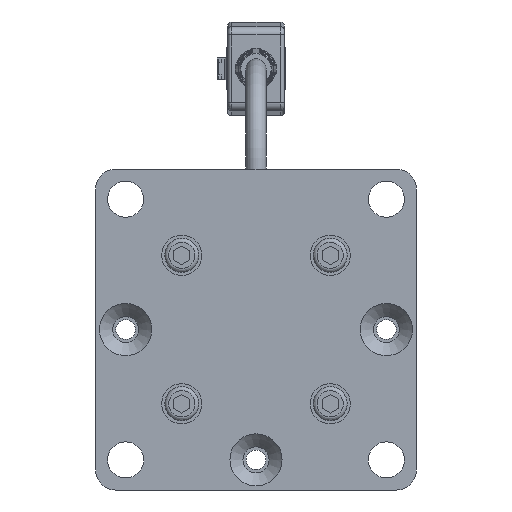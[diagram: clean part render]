
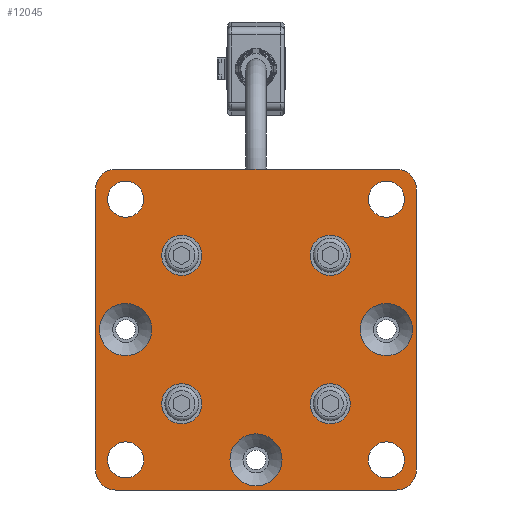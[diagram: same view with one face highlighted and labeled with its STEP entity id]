
A CAD part, front view. The second image highlights one B-rep face of the part: STEP entity #12045.
In plain terms, the highlighted planar face has unit normal (0, -1, 0) as drawn and (0, 0, 1) by its records, which use the part's own axes.
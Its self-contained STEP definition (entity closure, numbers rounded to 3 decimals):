
#491=CIRCLE('',#16275,5.);
#492=CIRCLE('',#16276,5.);
#493=CIRCLE('',#16277,5.);
#494=CIRCLE('',#16278,5.);
#495=CIRCLE('',#16279,6.5);
#496=CIRCLE('',#16280,6.5);
#497=CIRCLE('',#16281,6.5);
#498=CIRCLE('',#16282,4.5);
#499=CIRCLE('',#16283,4.5);
#500=CIRCLE('',#16284,4.5);
#501=CIRCLE('',#16285,4.5);
#502=CIRCLE('',#16286,5.);
#503=CIRCLE('',#16287,5.);
#504=CIRCLE('',#16288,5.);
#505=CIRCLE('',#16289,5.);
#949=ORIENTED_EDGE('',*,*,#4481,.T.);
#950=ORIENTED_EDGE('',*,*,#4482,.T.);
#951=ORIENTED_EDGE('',*,*,#4483,.T.);
#952=ORIENTED_EDGE('',*,*,#4484,.T.);
#953=ORIENTED_EDGE('',*,*,#4485,.T.);
#954=ORIENTED_EDGE('',*,*,#4486,.T.);
#955=ORIENTED_EDGE('',*,*,#4487,.T.);
#956=ORIENTED_EDGE('',*,*,#4488,.F.);
#957=ORIENTED_EDGE('',*,*,#4489,.F.);
#958=ORIENTED_EDGE('',*,*,#4490,.F.);
#959=ORIENTED_EDGE('',*,*,#4491,.F.);
#960=ORIENTED_EDGE('',*,*,#4471,.T.);
#961=ORIENTED_EDGE('',*,*,#4492,.T.);
#962=ORIENTED_EDGE('',*,*,#4473,.T.);
#963=ORIENTED_EDGE('',*,*,#4493,.T.);
#964=ORIENTED_EDGE('',*,*,#4477,.T.);
#965=ORIENTED_EDGE('',*,*,#4494,.T.);
#966=ORIENTED_EDGE('',*,*,#4465,.T.);
#967=ORIENTED_EDGE('',*,*,#4495,.T.);
#4465=EDGE_CURVE('',#6231,#6232,#7419,.T.);
#4471=EDGE_CURVE('',#6238,#6237,#7425,.T.);
#4473=EDGE_CURVE('',#6239,#6240,#7427,.T.);
#4477=EDGE_CURVE('',#6243,#6244,#7431,.T.);
#4481=EDGE_CURVE('',#6247,#6247,#491,.T.);
#4482=EDGE_CURVE('',#6248,#6248,#492,.T.);
#4483=EDGE_CURVE('',#6249,#6249,#493,.T.);
#4484=EDGE_CURVE('',#6250,#6250,#494,.T.);
#4485=EDGE_CURVE('',#6251,#6251,#495,.T.);
#4486=EDGE_CURVE('',#6252,#6252,#496,.T.);
#4487=EDGE_CURVE('',#6253,#6253,#497,.T.);
#4488=EDGE_CURVE('',#6254,#6254,#498,.T.);
#4489=EDGE_CURVE('',#6255,#6255,#499,.T.);
#4490=EDGE_CURVE('',#6256,#6256,#500,.T.);
#4491=EDGE_CURVE('',#6257,#6257,#501,.T.);
#4492=EDGE_CURVE('',#6237,#6239,#502,.T.);
#4493=EDGE_CURVE('',#6240,#6243,#503,.T.);
#4494=EDGE_CURVE('',#6244,#6231,#504,.T.);
#4495=EDGE_CURVE('',#6232,#6238,#505,.T.);
#6231=VERTEX_POINT('',#20898);
#6232=VERTEX_POINT('',#20899);
#6237=VERTEX_POINT('',#20910);
#6238=VERTEX_POINT('',#20912);
#6239=VERTEX_POINT('',#20916);
#6240=VERTEX_POINT('',#20917);
#6243=VERTEX_POINT('',#20925);
#6244=VERTEX_POINT('',#20926);
#6247=VERTEX_POINT('',#20934);
#6248=VERTEX_POINT('',#20936);
#6249=VERTEX_POINT('',#20938);
#6250=VERTEX_POINT('',#20940);
#6251=VERTEX_POINT('',#20942);
#6252=VERTEX_POINT('',#20944);
#6253=VERTEX_POINT('',#20946);
#6254=VERTEX_POINT('',#20948);
#6255=VERTEX_POINT('',#20950);
#6256=VERTEX_POINT('',#20952);
#6257=VERTEX_POINT('',#20954);
#7419=LINE('',#20897,#8631);
#7425=LINE('',#20911,#8637);
#7427=LINE('',#20915,#8639);
#7431=LINE('',#20924,#8643);
#8631=VECTOR('',#17411,1000.);
#8637=VECTOR('',#17419,1000.);
#8639=VECTOR('',#17423,1000.);
#8643=VECTOR('',#17429,1000.);
#9847=EDGE_LOOP('',(#949));
#9848=EDGE_LOOP('',(#950));
#9849=EDGE_LOOP('',(#951));
#9850=EDGE_LOOP('',(#952));
#9851=EDGE_LOOP('',(#953));
#9852=EDGE_LOOP('',(#954));
#9853=EDGE_LOOP('',(#955));
#9854=EDGE_LOOP('',(#956));
#9855=EDGE_LOOP('',(#957));
#9856=EDGE_LOOP('',(#958));
#9857=EDGE_LOOP('',(#959));
#9858=EDGE_LOOP('',(#960,#961,#962,#963,#964,#965,#966,#967));
#10719=FACE_BOUND('',#9847,.T.);
#10720=FACE_BOUND('',#9848,.T.);
#10721=FACE_BOUND('',#9849,.T.);
#10722=FACE_BOUND('',#9850,.T.);
#10723=FACE_BOUND('',#9851,.T.);
#10724=FACE_BOUND('',#9852,.T.);
#10725=FACE_BOUND('',#9853,.T.);
#10726=FACE_BOUND('',#9854,.T.);
#10727=FACE_BOUND('',#9855,.T.);
#10728=FACE_BOUND('',#9856,.T.);
#10729=FACE_BOUND('',#9857,.T.);
#10730=FACE_BOUND('',#9858,.T.);
#11591=PLANE('',#16274);
#12045=ADVANCED_FACE('',(#10719,#10720,#10721,#10722,#10723,#10724,#10725,
#10726,#10727,#10728,#10729,#10730),#11591,.T.);
#16274=AXIS2_PLACEMENT_3D('',#20932,#17433,#17434);
#16275=AXIS2_PLACEMENT_3D('',#20933,#17435,#17436);
#16276=AXIS2_PLACEMENT_3D('',#20935,#17437,#17438);
#16277=AXIS2_PLACEMENT_3D('',#20937,#17439,#17440);
#16278=AXIS2_PLACEMENT_3D('',#20939,#17441,#17442);
#16279=AXIS2_PLACEMENT_3D('',#20941,#17443,#17444);
#16280=AXIS2_PLACEMENT_3D('',#20943,#17445,#17446);
#16281=AXIS2_PLACEMENT_3D('',#20945,#17447,#17448);
#16282=AXIS2_PLACEMENT_3D('',#20947,#17449,#17450);
#16283=AXIS2_PLACEMENT_3D('',#20949,#17451,#17452);
#16284=AXIS2_PLACEMENT_3D('',#20951,#17453,#17454);
#16285=AXIS2_PLACEMENT_3D('',#20953,#17455,#17456);
#16286=AXIS2_PLACEMENT_3D('',#20955,#17457,#17458);
#16287=AXIS2_PLACEMENT_3D('',#20956,#17459,#17460);
#16288=AXIS2_PLACEMENT_3D('',#20957,#17461,#17462);
#16289=AXIS2_PLACEMENT_3D('',#20958,#17463,#17464);
#17411=DIRECTION('',(0.,-1.,0.));
#17419=DIRECTION('',(1.,0.,0.));
#17423=DIRECTION('',(0.,1.,0.));
#17429=DIRECTION('',(-1.,0.,0.));
#17433=DIRECTION('',(0.,0.,1.));
#17434=DIRECTION('',(1.,0.,0.));
#17435=DIRECTION('',(0.,0.,-1.));
#17436=DIRECTION('',(0.,-1.,0.));
#17437=DIRECTION('',(0.,0.,-1.));
#17438=DIRECTION('',(0.,-1.,0.));
#17439=DIRECTION('',(0.,0.,-1.));
#17440=DIRECTION('',(0.,-1.,0.));
#17441=DIRECTION('',(0.,0.,-1.));
#17442=DIRECTION('',(0.,-1.,0.));
#17443=DIRECTION('',(0.,0.,-1.));
#17444=DIRECTION('',(0.,-1.,0.));
#17445=DIRECTION('',(0.,0.,-1.));
#17446=DIRECTION('',(0.,-1.,0.));
#17447=DIRECTION('',(0.,0.,-1.));
#17448=DIRECTION('',(0.,-1.,0.));
#17449=DIRECTION('',(0.,0.,1.));
#17450=DIRECTION('',(0.,1.,0.));
#17451=DIRECTION('',(0.,0.,1.));
#17452=DIRECTION('',(0.,1.,0.));
#17453=DIRECTION('',(0.,0.,1.));
#17454=DIRECTION('',(0.,1.,0.));
#17455=DIRECTION('',(0.,0.,1.));
#17456=DIRECTION('',(0.,1.,0.));
#17457=DIRECTION('',(0.,0.,1.));
#17458=DIRECTION('',(1.,0.,0.));
#17459=DIRECTION('',(0.,0.,1.));
#17460=DIRECTION('',(1.,0.,0.));
#17461=DIRECTION('',(0.,0.,1.));
#17462=DIRECTION('',(1.,0.,0.));
#17463=DIRECTION('',(0.,0.,1.));
#17464=DIRECTION('',(1.,0.,0.));
#20897=CARTESIAN_POINT('',(-40.,40.,10.));
#20898=CARTESIAN_POINT('',(-40.,35.,10.));
#20899=CARTESIAN_POINT('',(-40.,-35.,10.));
#20910=CARTESIAN_POINT('',(35.,-40.,10.));
#20911=CARTESIAN_POINT('',(-40.,-40.,10.));
#20912=CARTESIAN_POINT('',(-35.,-40.,10.));
#20915=CARTESIAN_POINT('',(40.,-40.,10.));
#20916=CARTESIAN_POINT('',(40.,-35.,10.));
#20917=CARTESIAN_POINT('',(40.,35.,10.));
#20924=CARTESIAN_POINT('',(40.,40.,10.));
#20925=CARTESIAN_POINT('',(35.,40.,10.));
#20926=CARTESIAN_POINT('',(-35.,40.,10.));
#20932=CARTESIAN_POINT('',(-40.,-40.,10.));
#20933=CARTESIAN_POINT('',(18.5,-18.5,10.));
#20934=CARTESIAN_POINT('',(18.5,-23.5,10.));
#20935=CARTESIAN_POINT('',(18.5,18.5,10.));
#20936=CARTESIAN_POINT('',(18.5,13.5,10.));
#20937=CARTESIAN_POINT('',(-18.5,18.5,10.));
#20938=CARTESIAN_POINT('',(-18.5,13.5,10.));
#20939=CARTESIAN_POINT('',(-18.5,-18.5,10.));
#20940=CARTESIAN_POINT('',(-18.5,-23.5,10.));
#20941=CARTESIAN_POINT('',(0.,-32.5,10.));
#20942=CARTESIAN_POINT('',(0.,-39.,10.));
#20943=CARTESIAN_POINT('',(0.,32.5,10.));
#20944=CARTESIAN_POINT('',(0.,26.,10.));
#20945=CARTESIAN_POINT('',(-32.5,0.,10.));
#20946=CARTESIAN_POINT('',(-32.5,-6.5,10.));
#20947=CARTESIAN_POINT('',(-32.5,-32.5,10.));
#20948=CARTESIAN_POINT('',(-32.5,-28.,10.));
#20949=CARTESIAN_POINT('',(32.5,-32.5,10.));
#20950=CARTESIAN_POINT('',(32.5,-28.,10.));
#20951=CARTESIAN_POINT('',(32.5,32.5,10.));
#20952=CARTESIAN_POINT('',(32.5,37.,10.));
#20953=CARTESIAN_POINT('',(-32.5,32.5,10.));
#20954=CARTESIAN_POINT('',(-32.5,37.,10.));
#20955=CARTESIAN_POINT('',(35.,-35.,10.));
#20956=CARTESIAN_POINT('',(35.,35.,10.));
#20957=CARTESIAN_POINT('',(-35.,35.,10.));
#20958=CARTESIAN_POINT('',(-35.,-35.,10.));
